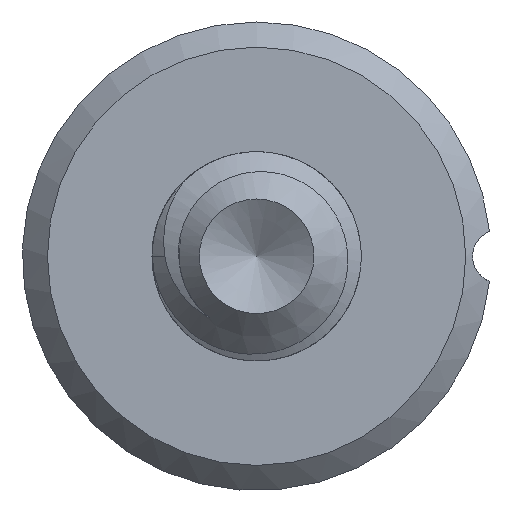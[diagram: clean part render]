
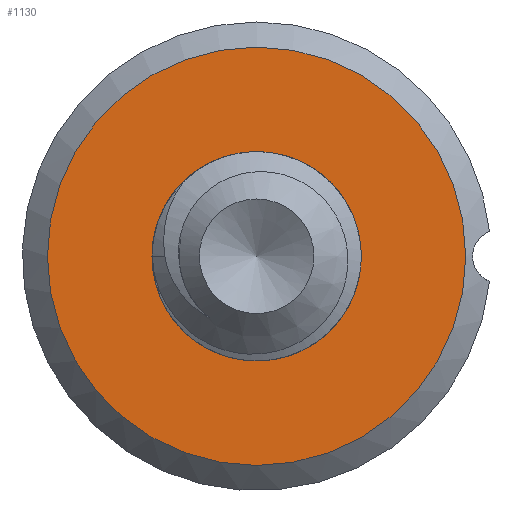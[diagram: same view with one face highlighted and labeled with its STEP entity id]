
A CAD part, left-side view. The second image highlights one B-rep face of the part: STEP entity #1130.
In plain terms, the highlighted planar face has unit normal (-1, 0, 0).
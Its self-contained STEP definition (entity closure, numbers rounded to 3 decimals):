
#44=FACE_BOUND('',#246,.T.);
#62=PLANE('',#1275);
#174=FACE_OUTER_BOUND('',#245,.T.);
#245=EDGE_LOOP('',(#1012));
#246=EDGE_LOOP('',(#1013));
#291=CIRCLE('',#1272,6.35);
#293=CIRCLE('',#1276,2.558);
#534=VERTEX_POINT('',#4076);
#537=VERTEX_POINT('',#4104);
#693=EDGE_CURVE('',#534,#534,#291,.T.);
#698=EDGE_CURVE('',#537,#537,#293,.F.);
#1012=ORIENTED_EDGE('',*,*,#693,.F.);
#1013=ORIENTED_EDGE('',*,*,#698,.F.);
#1130=ADVANCED_FACE('',(#174,#44),#62,.F.);
#1272=AXIS2_PLACEMENT_3D('',#4078,#1536,#1537);
#1275=AXIS2_PLACEMENT_3D('',#4103,#1544,#1545);
#1276=AXIS2_PLACEMENT_3D('',#4105,#1546,#1547);
#1536=DIRECTION('center_axis',(1.,0.,0.));
#1537=DIRECTION('ref_axis',(0.,0.,-1.));
#1544=DIRECTION('center_axis',(1.,0.,0.));
#1545=DIRECTION('ref_axis',(0.,0.,-1.));
#1546=DIRECTION('center_axis',(1.,0.,0.));
#1547=DIRECTION('ref_axis',(0.,0.,-1.));
#4076=CARTESIAN_POINT('',(0.,0.,6.35));
#4078=CARTESIAN_POINT('Origin',(0.,0.,0.));
#4103=CARTESIAN_POINT('Origin',(0.,0.02,0.));
#4104=CARTESIAN_POINT('',(0.,0.,2.558));
#4105=CARTESIAN_POINT('Origin',(0.,0.,0.));
